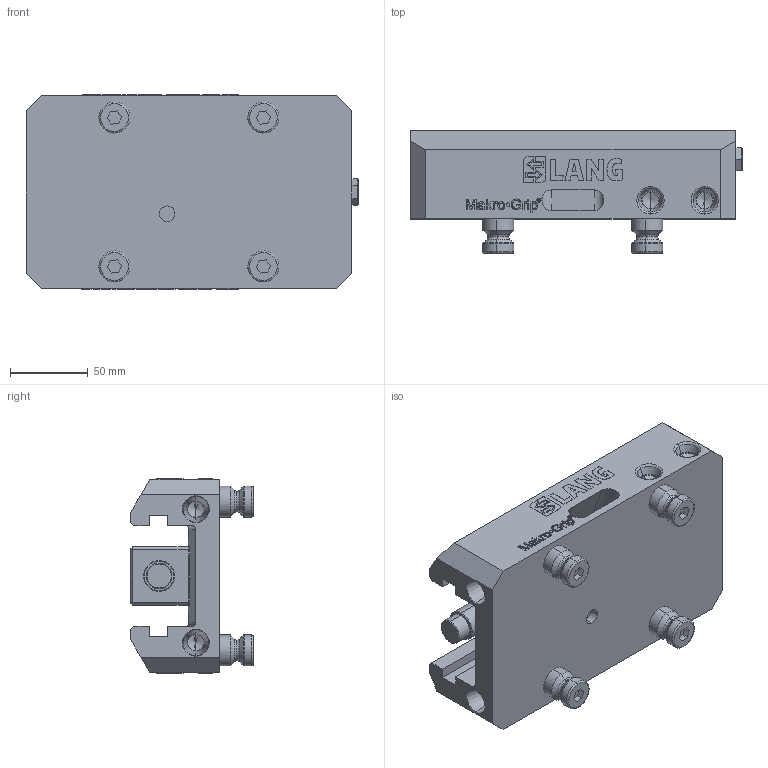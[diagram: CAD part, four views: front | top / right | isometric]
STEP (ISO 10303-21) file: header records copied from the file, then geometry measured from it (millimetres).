
FILE_DESCRIPTION (( 'STEP AP214' ), '1' );
FILE_NAME ('40205-77.STEP', '2024-12-11T08:32:57', ( '' ), ( '' ), 'SwSTEP 2.0', 'SolidWorks 2021', '' );
FILE_SCHEMA (( 'AUTOMOTIVE_DESIGN' ));
Length unit declared in the file: millimetre
Products named in the file (1): 40205-77
Bounding box: 214 x 79 x 125.24 mm (x, y, z)
Volume: 919483 mm3; surface area: 145017.1 mm2
Topology: 47 solids, 48 shells, 906 faces, 2244 edges, 1446 vertices
Faces by surface type: plane 534, bspline 192, cylinder 74, cone 66, torus 40
Entity records: 44788 total; most frequent: CARTESIAN_POINT 14081, ORIENTED_EDGE 4448, DIRECTION 3506, EDGE_CURVE 2224, LINE 1556, VECTOR 1556, VERTEX_POINT 1446, AXIS2_PLACEMENT_3D 975
